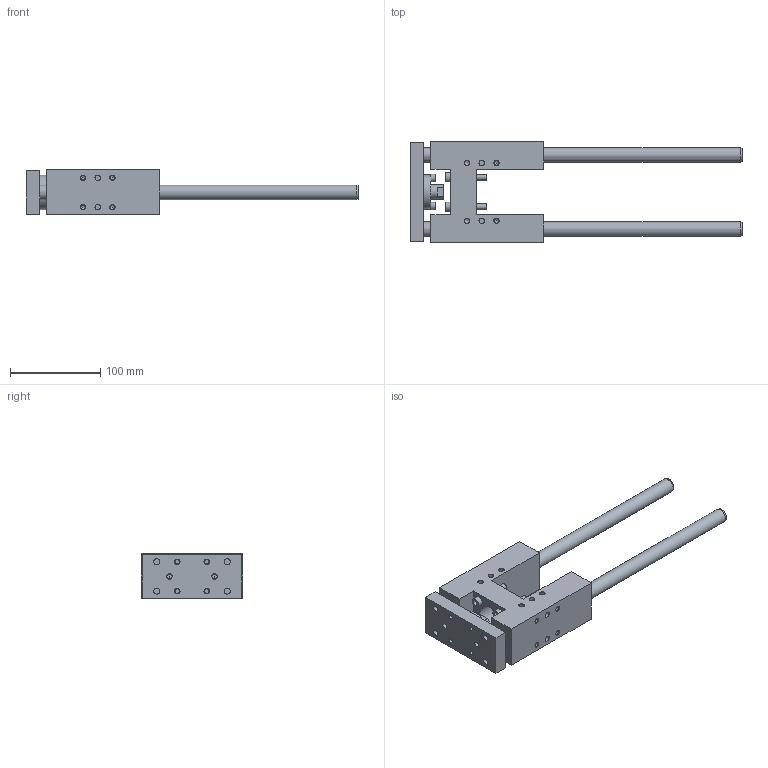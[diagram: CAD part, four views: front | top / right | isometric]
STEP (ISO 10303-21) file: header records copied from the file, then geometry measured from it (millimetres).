
FILE_DESCRIPTION( ( 'STEP AP214' ), '1' );
FILE_NAME( 'U:/Etudes/Top Solid/BIBLIO 3D AVM/TOP/PNEUMATIQUE/GUIDAGES/Type 32 (en H)/R_Renforcée/324R4_30.step', '2005-05-27T08:51:40', ( ' ' ), ( ' ' ), 'XStep 1.0', ' ', ' ' );
FILE_SCHEMA( ( 'automotive_design' ) );
Length unit declared in the file: metre
Products named in the file (2): 1; 2
Bounding box: 367 x 112 x 49 mm (x, y, z)
Volume: 599359.8 mm3; surface area: 132275.8 mm2
Topology: 2 solids, 5 shells, 269 faces, 602 edges, 401 vertices
Faces by surface type: plane 128, cylinder 96, cone 45
Full cylindrical faces by diameter (mm): 4.918 x32, 5 x4, 5.5 x2, 6 x16, 6.2 x12, 6.5 x4, 6.6 x4, 8.5 x2, 8.647 x2, 10 x4, 11 x4, 16 x5, 18 x1, 22.8 x1, 25 x1, 30 x1, 38 x1
Entity records: 8627 total; most frequent: CARTESIAN_POINT 1195, DIRECTION 1138, ORIENTED_EDGE 772, EDGE_LOOP 500, AXIS2_PLACEMENT_3D 487, EDGE_CURVE 386, FACE_OUTER_BOUND 365, VERTEX_POINT 340
